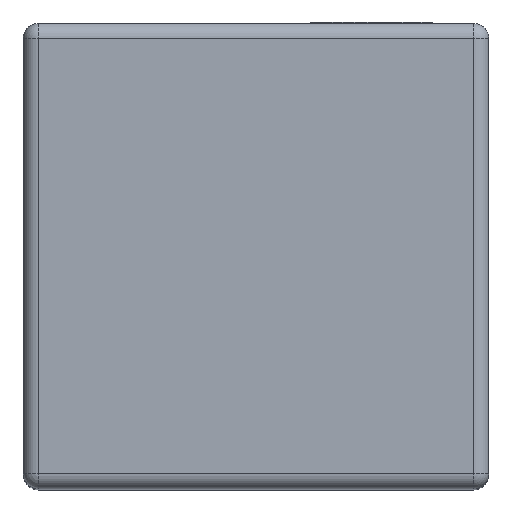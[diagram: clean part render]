
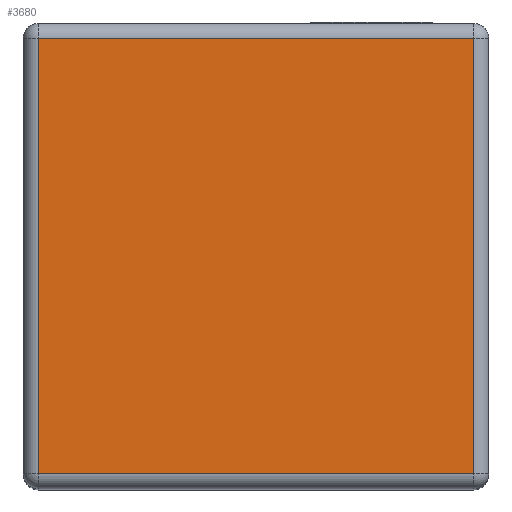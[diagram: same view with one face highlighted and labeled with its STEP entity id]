
A CAD part, top view. The second image highlights one B-rep face of the part: STEP entity #3680.
In plain terms, the highlighted planar face has unit normal (0, 0, 1).
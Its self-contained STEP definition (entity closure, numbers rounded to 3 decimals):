
#3644=AXIS2_PLACEMENT_3D('Plane Axis2P3D',#3641,#3642,#3643) ;
#3641=CARTESIAN_POINT('Axis2P3D Location',(0.,0.,40.5)) ;
#3646=CARTESIAN_POINT('Line Origine',(0.,14.25,40.5)) ;
#3650=CARTESIAN_POINT('Vertex',(14.25,14.25,40.5)) ;
#3652=CARTESIAN_POINT('Vertex',(-14.25,14.25,40.5)) ;
#3655=CARTESIAN_POINT('Line Origine',(-14.25,0.,40.5)) ;
#3659=CARTESIAN_POINT('Vertex',(-14.25,-14.25,40.5)) ;
#3662=CARTESIAN_POINT('Line Origine',(0.,-14.25,40.5)) ;
#3666=CARTESIAN_POINT('Vertex',(14.25,-14.25,40.5)) ;
#3669=CARTESIAN_POINT('Line Origine',(14.25,0.,40.5)) ;
#3642=DIRECTION('Axis2P3D Direction',(0.,0.,1.)) ;
#3643=DIRECTION('Axis2P3D XDirection',(1.,0.,0.)) ;
#3647=DIRECTION('Vector Direction',(-1.,0.,0.)) ;
#3656=DIRECTION('Vector Direction',(0.,1.,0.)) ;
#3663=DIRECTION('Vector Direction',(-1.,0.,0.)) ;
#3670=DIRECTION('Vector Direction',(0.,-1.,0.)) ;
#3648=VECTOR('Line Direction',#3647,1.) ;
#3657=VECTOR('Line Direction',#3656,1.) ;
#3664=VECTOR('Line Direction',#3663,1.) ;
#3671=VECTOR('Line Direction',#3670,1.) ;
#3675=ORIENTED_EDGE('',*,*,#3654,.T.) ;
#3676=ORIENTED_EDGE('',*,*,#3661,.T.) ;
#3677=ORIENTED_EDGE('',*,*,#3668,.T.) ;
#3678=ORIENTED_EDGE('',*,*,#3673,.T.) ;
#3680=ADVANCED_FACE('Control-Unit',(#3679),#3645,.T.) ;
#3654=EDGE_CURVE('',#3651,#3653,#3649,.T.) ;
#3661=EDGE_CURVE('',#3653,#3660,#3658,.F.) ;
#3668=EDGE_CURVE('',#3660,#3667,#3665,.F.) ;
#3673=EDGE_CURVE('',#3667,#3651,#3672,.F.) ;
#3674=EDGE_LOOP('',(#3675,#3676,#3677,#3678)) ;
#3679=FACE_OUTER_BOUND('',#3674,.T.) ;
#3649=LINE('Line',#3646,#3648) ;
#3658=LINE('Line',#3655,#3657) ;
#3665=LINE('Line',#3662,#3664) ;
#3672=LINE('Line',#3669,#3671) ;
#3645=PLANE('',#3644) ;
#3651=VERTEX_POINT('',#3650) ;
#3653=VERTEX_POINT('',#3652) ;
#3660=VERTEX_POINT('',#3659) ;
#3667=VERTEX_POINT('',#3666) ;
